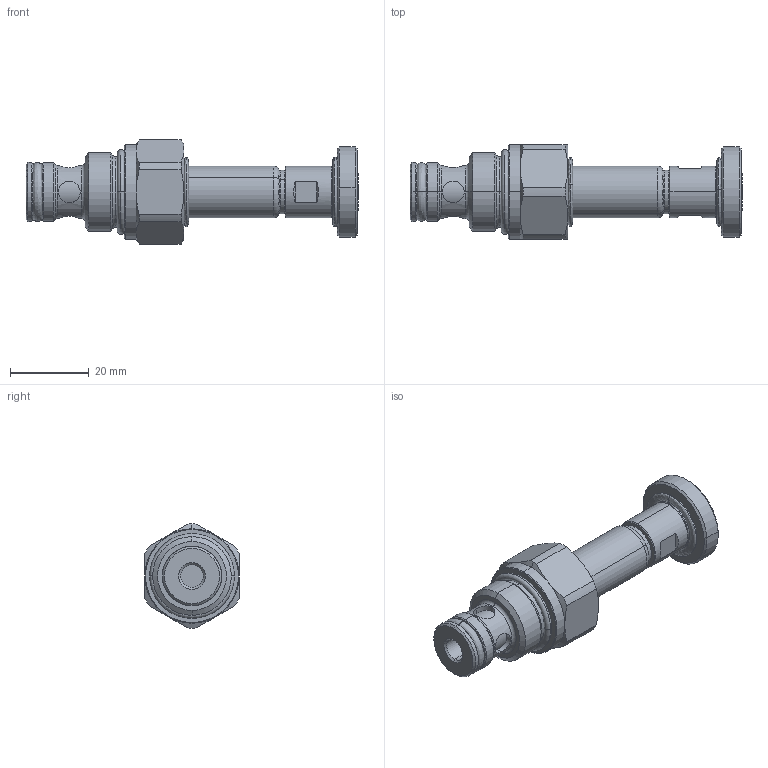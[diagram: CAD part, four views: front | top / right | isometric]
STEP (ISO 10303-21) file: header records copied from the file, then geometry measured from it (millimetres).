
FILE_DESCRIPTION (( 'STEP AP214' ), '1' );
FILE_NAME ('SVEPM20-BC.STEP', '2016-10-13T07:25:15', ( '' ), ( '' ), 'SwSTEP 2.0', 'SolidWorks 2014', '' );
FILE_SCHEMA (( 'AUTOMOTIVE_DESIGN' ));
Length unit declared in the file: millimetre
Products named in the file (2): SVEPM20-BC
Bounding box: 84.32 x 24 x 26.5 mm (x, y, z)
Volume: 19849.2 mm3; surface area: 7520.8 mm2
Topology: 5 solids, 5 shells, 169 faces, 366 edges, 211 vertices
Faces by surface type: cone 60, cylinder 48, torus 26, plane 23, bspline 12
Entity records: 5301 total; most frequent: CARTESIAN_POINT 1594, DIRECTION 806, ORIENTED_EDGE 728, EDGE_CURVE 364, AXIS2_PLACEMENT_3D 349, VERTEX_POINT 211, CIRCLE 190, EDGE_LOOP 183
